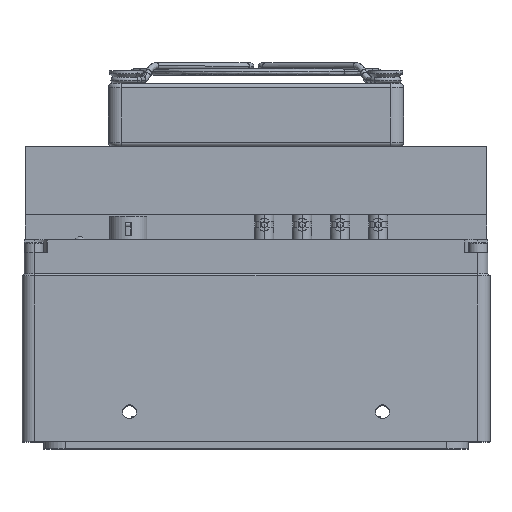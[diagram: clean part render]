
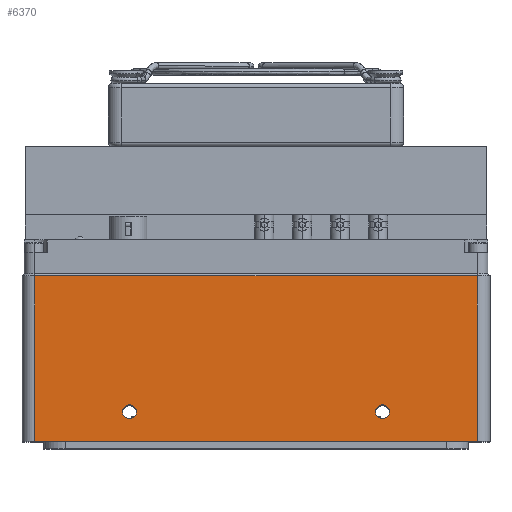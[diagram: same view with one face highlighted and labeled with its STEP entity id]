
A CAD part, top view. The second image highlights one B-rep face of the part: STEP entity #6370.
In plain terms, the highlighted planar face has unit normal (0, 0, 1).
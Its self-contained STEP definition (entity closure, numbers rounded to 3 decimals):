
#12 = ORIENTED_EDGE ( 'NONE', *, *, #13318, .T. ) ;
#179 = EDGE_LOOP ( 'NONE', ( #40465, #42461, #12, #42298 ) ) ;
#690 = CARTESIAN_POINT ( 'NONE',  ( -78.134, -35.648, 84.619 ) ) ;
#947 = EDGE_CURVE ( 'NONE', #32703, #14358, #38258, .T. ) ;
#1402 = EDGE_CURVE ( 'NONE', #45857, #47860, #7645, .T. ) ;
#3017 = VERTEX_POINT ( 'NONE', #5388 ) ;
#3248 = EDGE_CURVE ( 'NONE', #5000, #3017, #29039, .T. ) ;
#4852 = CARTESIAN_POINT ( 'NONE',  ( 26.866, -35.648, 84.619 ) ) ;
#5000 = VERTEX_POINT ( 'NONE', #8167 ) ;
#5388 = CARTESIAN_POINT ( 'NONE',  ( -78.134, 3.572, 84.619 ) ) ;
#5581 = VECTOR ( 'NONE', #30301, 1000. ) ;
#6088 = VECTOR ( 'NONE', #38424, 1000. ) ;
#6353 = DIRECTION ( 'NONE',  ( 1., 0., 0. ) ) ;
#6370 = ADVANCED_FACE ( 'NONE', ( #37129, #9441, #49096 ), #10241, .F. ) ;
#7611 = EDGE_LOOP ( 'NONE', ( #30932, #37166 ) ) ;
#7645 = CIRCLE ( 'NONE', #26202, 1.65 ) ;
#8167 = CARTESIAN_POINT ( 'NONE',  ( 26.866, 3.572, 84.619 ) ) ;
#8270 = DIRECTION ( 'NONE',  ( -1., 0., 0. ) ) ;
#8478 = DIRECTION ( 'NONE',  ( 0., 0., 1. ) ) ;
#8897 = CARTESIAN_POINT ( 'NONE',  ( -53.984, -28.648, 84.619 ) ) ;
#9441 = FACE_BOUND ( 'NONE', #7611, .T. ) ;
#9490 = CARTESIAN_POINT ( 'NONE',  ( 6.016, -28.648, 84.619 ) ) ;
#10241 = PLANE ( 'NONE',  #31766 ) ;
#11423 = CARTESIAN_POINT ( 'NONE',  ( -78.134, -32.598, 84.619 ) ) ;
#11539 = CARTESIAN_POINT ( 'NONE',  ( 26.866, -32.598, 84.619 ) ) ;
#12020 = EDGE_CURVE ( 'NONE', #21188, #26419, #14120, .T. ) ;
#12089 = DIRECTION ( 'NONE',  ( 0., 0., 1. ) ) ;
#12505 = DIRECTION ( 'NONE',  ( -1., 0., 0. ) ) ;
#13318 = EDGE_CURVE ( 'NONE', #14358, #5000, #25495, .T. ) ;
#14120 = CIRCLE ( 'NONE', #16160, 1.65 ) ;
#14358 = VERTEX_POINT ( 'NONE', #4852 ) ;
#16160 = AXIS2_PLACEMENT_3D ( 'NONE', #27605, #46885, #23882 ) ;
#16981 = CARTESIAN_POINT ( 'NONE',  ( 44.366, -35.648, 84.619 ) ) ;
#17042 = ORIENTED_EDGE ( 'NONE', *, *, #19520, .F. ) ;
#17997 = CARTESIAN_POINT ( 'NONE',  ( 44.366, -32.598, 84.619 ) ) ;
#18520 = AXIS2_PLACEMENT_3D ( 'NONE', #42693, #12089, #42845 ) ;
#19520 = EDGE_CURVE ( 'NONE', #26419, #21188, #22864, .T. ) ;
#19634 = VECTOR ( 'NONE', #20867, 1000. ) ;
#20110 = CARTESIAN_POINT ( 'NONE',  ( -55.634, -28.648, 84.619 ) ) ;
#20867 = DIRECTION ( 'NONE',  ( 1., 0., 0. ) ) ;
#21188 = VERTEX_POINT ( 'NONE', #44587 ) ;
#21254 = LINE ( 'NONE', #11423, #5581 ) ;
#21528 = DIRECTION ( 'NONE',  ( 0., 0., -1. ) ) ;
#22776 = AXIS2_PLACEMENT_3D ( 'NONE', #20110, #8478, #12505 ) ;
#22864 = CIRCLE ( 'NONE', #22776, 1.65 ) ;
#23007 = DIRECTION ( 'NONE',  ( 0., 1., 0. ) ) ;
#23044 = VECTOR ( 'NONE', #23007, 1000. ) ;
#23882 = DIRECTION ( 'NONE',  ( -1., 0., 0. ) ) ;
#25495 = LINE ( 'NONE', #11539, #23044 ) ;
#26202 = AXIS2_PLACEMENT_3D ( 'NONE', #31335, #30657, #8270 ) ;
#26419 = VERTEX_POINT ( 'NONE', #8897 ) ;
#26495 = CIRCLE ( 'NONE', #18520, 1.65 ) ;
#27535 = EDGE_CURVE ( 'NONE', #3017, #32703, #21254, .T. ) ;
#27605 = CARTESIAN_POINT ( 'NONE',  ( -55.634, -28.648, 84.619 ) ) ;
#29039 = LINE ( 'NONE', #41794, #6088 ) ;
#30301 = DIRECTION ( 'NONE',  ( 0., -1., 0. ) ) ;
#30657 = DIRECTION ( 'NONE',  ( 0., 0., 1. ) ) ;
#30812 = EDGE_CURVE ( 'NONE', #47860, #45857, #26495, .T. ) ;
#30932 = ORIENTED_EDGE ( 'NONE', *, *, #1402, .F. ) ;
#31335 = CARTESIAN_POINT ( 'NONE',  ( 4.366, -28.648, 84.619 ) ) ;
#31588 = EDGE_LOOP ( 'NONE', ( #46139, #17042 ) ) ;
#31766 = AXIS2_PLACEMENT_3D ( 'NONE', #17997, #21528, #6353 ) ;
#32703 = VERTEX_POINT ( 'NONE', #690 ) ;
#37129 = FACE_BOUND ( 'NONE', #31588, .T. ) ;
#37166 = ORIENTED_EDGE ( 'NONE', *, *, #30812, .F. ) ;
#38181 = CARTESIAN_POINT ( 'NONE',  ( 2.716, -28.648, 84.619 ) ) ;
#38258 = LINE ( 'NONE', #16981, #19634 ) ;
#38424 = DIRECTION ( 'NONE',  ( -1., 0., 0. ) ) ;
#40465 = ORIENTED_EDGE ( 'NONE', *, *, #27535, .T. ) ;
#41794 = CARTESIAN_POINT ( 'NONE',  ( -92.634, 3.572, 84.619 ) ) ;
#42298 = ORIENTED_EDGE ( 'NONE', *, *, #3248, .T. ) ;
#42461 = ORIENTED_EDGE ( 'NONE', *, *, #947, .T. ) ;
#42693 = CARTESIAN_POINT ( 'NONE',  ( 4.366, -28.648, 84.619 ) ) ;
#42845 = DIRECTION ( 'NONE',  ( -1., 0., 0. ) ) ;
#44587 = CARTESIAN_POINT ( 'NONE',  ( -57.284, -28.648, 84.619 ) ) ;
#45857 = VERTEX_POINT ( 'NONE', #38181 ) ;
#46139 = ORIENTED_EDGE ( 'NONE', *, *, #12020, .F. ) ;
#46885 = DIRECTION ( 'NONE',  ( 0., 0., 1. ) ) ;
#47860 = VERTEX_POINT ( 'NONE', #9490 ) ;
#49096 = FACE_OUTER_BOUND ( 'NONE', #179, .T. ) ;
